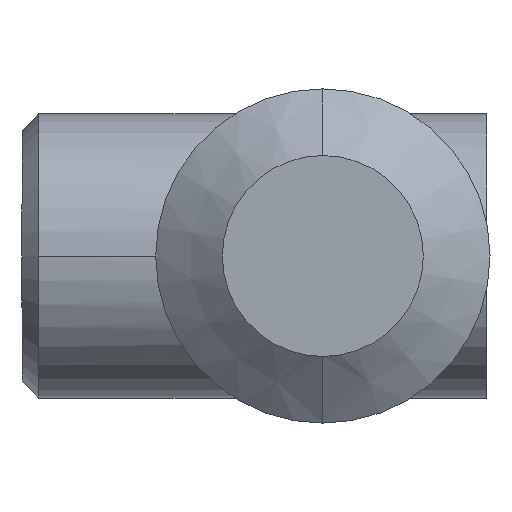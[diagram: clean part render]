
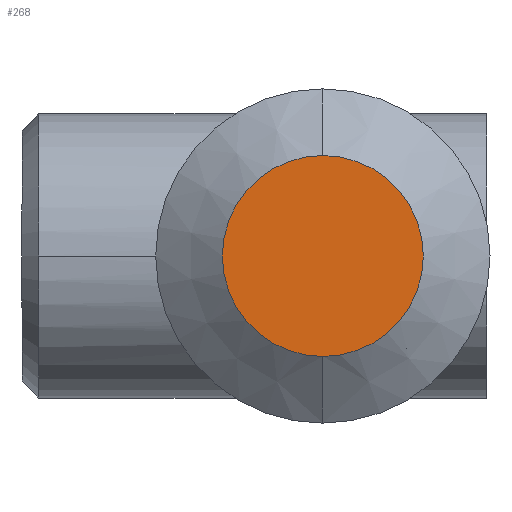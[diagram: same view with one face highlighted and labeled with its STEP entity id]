
A CAD part, left-side view. The second image highlights one B-rep face of the part: STEP entity #268.
In plain terms, the highlighted planar face has unit normal (-1, 0, 0).
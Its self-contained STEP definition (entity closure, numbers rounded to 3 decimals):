
#81 = CIRCLE ( 'NONE', #1768, 6.012 ) ;
#90 = AXIS2_PLACEMENT_3D ( 'NONE', #1529, #1122, #1062 ) ;
#94 = EDGE_LOOP ( 'NONE', ( #1679, #1770 ) ) ;
#268 = ADVANCED_FACE ( 'NONE', ( #1841 ), #1127, .F. ) ;
#544 = CARTESIAN_POINT ( 'NONE',  ( -13.707, 0., -6.012 ) ) ;
#567 = DIRECTION ( 'NONE',  ( 0., 0., -1. ) ) ;
#573 = DIRECTION ( 'NONE',  ( 1., 0., 0. ) ) ;
#577 = CARTESIAN_POINT ( 'NONE',  ( -13.707, 0., 0. ) ) ;
#603 = VERTEX_POINT ( 'NONE', #544 ) ;
#795 = VERTEX_POINT ( 'NONE', #2393 ) ;
#1062 = DIRECTION ( 'NONE',  ( 0., 0., -1. ) ) ;
#1122 = DIRECTION ( 'NONE',  ( 1., 0., 0. ) ) ;
#1127 = PLANE ( 'NONE',  #90 ) ;
#1156 = DIRECTION ( 'NONE',  ( 0., 0., -1. ) ) ;
#1160 = DIRECTION ( 'NONE',  ( 1., 0., 0. ) ) ;
#1163 = CARTESIAN_POINT ( 'NONE',  ( -13.707, 0., 0. ) ) ;
#1529 = CARTESIAN_POINT ( 'NONE',  ( -13.707, 0., 0. ) ) ;
#1633 = CIRCLE ( 'NONE', #2661, 6.012 ) ;
#1679 = ORIENTED_EDGE ( 'NONE', *, *, #2123, .F. ) ;
#1768 = AXIS2_PLACEMENT_3D ( 'NONE', #1163, #1160, #1156 ) ;
#1770 = ORIENTED_EDGE ( 'NONE', *, *, #2257, .F. ) ;
#1841 = FACE_OUTER_BOUND ( 'NONE', #94, .T. ) ;
#2123 = EDGE_CURVE ( 'NONE', #603, #795, #81, .T. ) ;
#2257 = EDGE_CURVE ( 'NONE', #795, #603, #1633, .T. ) ;
#2393 = CARTESIAN_POINT ( 'NONE',  ( -13.707, 0., 6.012 ) ) ;
#2661 = AXIS2_PLACEMENT_3D ( 'NONE', #577, #573, #567 ) ;
